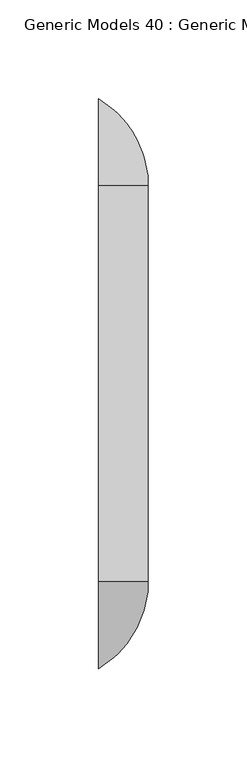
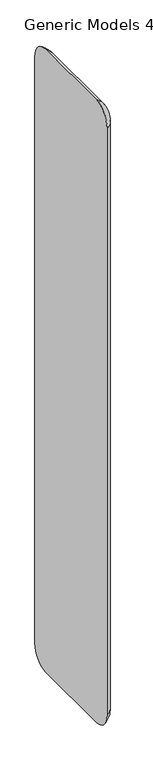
"""IFC4 building model written with IfcOpenShell, lengths in millimetres: proxy geometry, Generic Models 40 : Generic Models 14."""

from ifc_helpers import new_model, si_unit, point, frame, origin, place, context, project, spatial, circle_curve, ellipse_curve, trimmed, source, transform, mapped, element, save
from ifc_brep_helpers import plane_surface, cylinder_surface, revolved_surface, advanced_brep


def generic_models_40_generic_models_14_4b4f6101(model_context):
    return source(origin(), model_context, "Body", "AdvancedBrep", [
        advanced_brep(
        [(94959.7103465, 21767.9233453, 1482.0492363), (94959.7103465, 21762.8154866, 1476.9413776), (94959.7103465, 21762.8154866, 50.0), (94959.7103465, 21767.9233453, 44.8921412), (94959.7103465, 21967.9233453, 44.8921412), (94959.7103465, 21973.0312041, 50.0), (94959.7103465, 21973.0312041, 1476.9413776), (94959.7103465, 21967.9233453, 1482.0492363), (94934.7838788, 21724.0854425, 1476.9413776), (94934.7838788, 21767.9233453, 1520.7792804), (94934.7838788, 21967.9233453, 1520.7792804), (94934.7838788, 22011.7612482, 1476.9413776), (94934.7838788, 22011.7612482, 50.0), (94934.7838788, 21967.9233453, 6.1620971), (94934.7838788, 21767.9233453, 6.1620971), (94934.7838788, 21724.0854425, 50.0)],
        [
            (0, 1, circle_curve(frame((94959.7103465, 21767.9233453, 1476.9413776), z_axis=(1.0, 0.0, 0.0), x_axis=(0.0, -1.0, 0.0)), 5.1078588)),
            (1, 2),
            (2, 3, circle_curve(frame((94959.7103465, 21767.9233453, 50.0), z_axis=(1.0, 0.0, 0.0), x_axis=(0.0, 0.0, -1.0)), 5.1078588)),
            (3, 4),
            (4, 5, circle_curve(frame((94959.7103465, 21967.9233453, 50.0), z_axis=(1.0, 0.0, 0.0), x_axis=(0.0, 1.0, 0.0)), 5.1078588)),
            (5, 6),
            (6, 7, circle_curve(frame((94959.7103465, 21967.9233453, 1476.9413776), z_axis=(1.0, 0.0, 0.0), x_axis=(0.0, 0.0, 1.0)), 5.1078588)),
            (7, 0),
            (8, 9, circle_curve(frame((94934.7838788, 21767.9233453, 1476.9413776), z_axis=(-1.0, 0.0, 0.0), x_axis=(0.0, -1.0, 0.0)), 43.8379029)),
            (9, 10),
            (10, 11, circle_curve(frame((94934.7838788, 21967.9233453, 1476.9413776), z_axis=(-1.0, 0.0, 0.0), x_axis=(0.0, 0.0, 1.0)), 43.8379029)),
            (11, 12),
            (12, 13, circle_curve(frame((94934.7838788, 21967.9233453, 50.0), z_axis=(-1.0, 0.0, 0.0), x_axis=(0.0, 1.0, 0.0)), 43.8379029)),
            (13, 14),
            (14, 15, circle_curve(frame((94934.7838788, 21767.9233453, 50.0), z_axis=(-1.0, 0.0, 0.0), x_axis=(0.0, 0.0, -1.0)), 43.8379029)),
            (15, 8),
            (0, 9, circle_curve(frame((94907.6540355, 21767.9233453, 1475.9323468), z_axis=(0.0, -1.0, 0.0), x_axis=(0.0, 0.0, -1.0)), 52.4144623)),
            (8, 1, circle_curve(frame((94907.6540355, 21768.9323761, 1476.9413776), z_axis=(0.0, 0.0, 1.0), x_axis=(0.0, 1.0, 0.0)), 52.4144623)),
            (7, 10, circle_curve(frame((94907.6540355, 21967.9233453, 1475.9323468), z_axis=(0.0, -1.0, 0.0), x_axis=(0.0, 0.0, -1.0)), 52.4144623)),
            (6, 11, circle_curve(frame((94907.6540355, 21966.9143146, 1476.9413776), z_axis=(0.0, 0.0, 1.0), x_axis=(0.0, -1.0, 0.0)), 52.4144623)),
            (5, 12, circle_curve(frame((94907.6540355, 21966.9143146, 50.0), z_axis=(0.0, 0.0, 1.0), x_axis=(0.0, -1.0, 0.0)), 52.4144623)),
            (4, 13, circle_curve(frame((94907.6540355, 21967.9233453, 51.0090308), z_axis=(0.0, 1.0, 0.0), x_axis=(0.0, 0.0, 1.0)), 52.4144623)),
            (3, 14, circle_curve(frame((94907.6540355, 21767.9233453, 51.0090308), z_axis=(0.0, 1.0, 0.0), x_axis=(0.0, 0.0, 1.0)), 52.4144623)),
            (2, 15, circle_curve(frame((94907.6540355, 21768.9323761, 50.0), z_axis=(0.0, 0.0, -1.0), x_axis=(0.0, 1.0, 0.0)), 52.4144623)),
        ],
        [
            plane_surface(frame((94959.7103465, 21717.9233453, 1476.9413776), z_axis=(1.0, 0.0, 0.0), x_axis=(0.0, 0.0, -1.0))),
            plane_surface(frame((94934.7838788, 21717.9233453, 1476.9413776), z_axis=(-1.0, 0.0, 0.0), x_axis=(0.0, 0.0, 1.0))),
            revolved_surface(trimmed(ellipse_curve(frame((94907.6540355, 21768.9323761, 1476.9413776), z_axis=(0.0, 0.0, -1.0), x_axis=(0.0, 1.0, 0.0)), 52.4144623, 52.4144623), [point((94959.7103465, 21762.8154866, 1476.9413776))], [point((94919.7103465, 21717.9233453, 1476.9413776))], True, "CARTESIAN"), (94959.7103465, 21767.9233453, 1476.9413776), (-1.0, 0.0, 0.0)),
            cylinder_surface(frame((94907.6540355, 21767.9233453, 1475.9323468), z_axis=(0.0, 1.0, 0.0), x_axis=(0.0, 0.0, -1.0)), 52.4144623),
            revolved_surface(trimmed(ellipse_curve(frame((94907.6540355, 21967.9233453, 1475.9323468), z_axis=(0.0, -1.0, 0.0), x_axis=(0.0, 0.0, -1.0)), 52.4144623, 52.4144623), [point((94959.7103465, 21967.9233453, 1482.0492363))], [point((94919.7103465, 21967.9233453, 1526.9413776))], True, "CARTESIAN"), (94959.7103465, 21967.9233453, 1476.9413776), (-1.0, 0.0, 0.0)),
            cylinder_surface(frame((94907.6540355, 21966.9143146, 1476.9413776), z_axis=(0.0, 0.0, -1.0), x_axis=(0.0, -1.0, 0.0)), 52.4144623),
            revolved_surface(trimmed(ellipse_curve(frame((94907.6540355, 21966.9143146, 50.0), z_axis=(0.0, 0.0, 1.0), x_axis=(0.0, -1.0, 0.0)), 52.4144623, 52.4144623), [point((94959.7103465, 21973.0312041, 50.0))], [point((94919.7103465, 22017.9233453, 50.0))], True, "CARTESIAN"), (94959.7103465, 21967.9233453, 50.0), (-1.0, 0.0, 0.0)),
            cylinder_surface(frame((94907.6540355, 21967.9233453, 51.0090308), z_axis=(0.0, -1.0, 0.0), x_axis=(0.0, 0.0, 1.0)), 52.4144623),
            revolved_surface(trimmed(ellipse_curve(frame((94907.6540355, 21767.9233453, 51.0090308), z_axis=(0.0, 1.0, 0.0), x_axis=(0.0, 0.0, 1.0)), 52.4144623, 52.4144623), [point((94959.7103465, 21767.9233453, 44.8921412))], [point((94919.7103465, 21767.9233453, 0.0))], True, "CARTESIAN"), (94959.7103465, 21767.9233453, 50.0), (-1.0, 0.0, 0.0)),
            cylinder_surface(frame((94907.6540355, 21768.9323761, 50.0), z_axis=(0.0, 0.0, 1.0), x_axis=(0.0, 1.0, 0.0)), 52.4144623),
        ],
        [
            (0, [[1, 2, 3, 4, 5, 6, 7, 8]]),
            (1, [[9, 10, 11, 12, 13, 14, 15, 16]]),
            (2, [[17, -9, 18, -1]]),
            (3, [[-17, -8, 19, -10]]),
            (4, [[-19, -7, 20, -11]]),
            (5, [[-20, -6, 21, -12]]),
            (6, [[-21, -5, 22, -13]]),
            (7, [[-22, -4, 23, -14]]),
            (8, [[-23, -3, 24, -15]]),
            (9, [[-24, -2, -18, -16]]),
        ],
    ),
    ])


if __name__ == "__main__":
    model = new_model("IFC4")
    model_context = context("Model", 3, world=origin())
    ifc_project = project(units=[si_unit("LENGTHUNIT", "METRE", prefix="MILLI")], contexts=[model_context])
    site = spatial("IfcSite", under=ifc_project)
    building = spatial("IfcBuilding", under=site)
    placement = place(None, origin())
    generic_models_40_generic_models_14_shape = generic_models_40_generic_models_14_4b4f6101(model_context)
    element("IfcBuildingElementProxy", 1, Name="Generic Models 40 : Generic Models 14", ObjectType="Generic Models 40 : Generic Models 14", at=placement, inside=building, context=model_context, shape_type="MappedRepresentation", body=[
        mapped(generic_models_40_generic_models_14_shape, transform((0.0, 0.0, 0.0), x_axis=(1.0, 0.0, 0.0), y_axis=(0.0, 1.0, 0.0), z_axis=(0.0, 0.0, 1.0))),
    ])
    save(model, "model.ifc")
